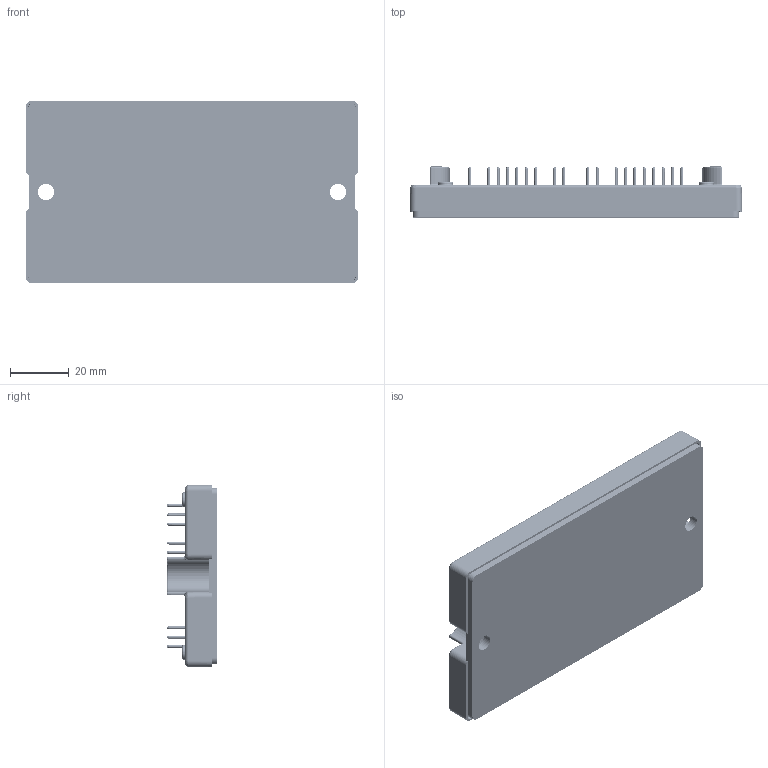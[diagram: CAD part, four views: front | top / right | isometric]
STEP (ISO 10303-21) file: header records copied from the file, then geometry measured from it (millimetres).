
FILE_DESCRIPTION((''),'2;1');
FILE_NAME('ALL-AMG450L65P4S5RE_ASM','2024-06-04T16:42:53',('yanbing.guo'),(''),'CREO PARAMETRIC BY PTC INC, 2022073','CREO PARAMETRIC BY PTC INC, 2022073','');
FILE_SCHEMA(('CONFIG_CONTROL_DESIGN','SHAPE_APPEARANCE_LAYERS_GROUPS'));
Products named in the file (6): COPPER-BASE-2HOLES; PIN; DBC00_ASM; AD-MID-COVER-2HOLES; AD-TOP-COVER; ALL-AMG450L65P4S5RE_ASM
Assembly tree (54 placements, depth 3):
  ALL-AMG450L65P4S5RE_ASM
    COPPER-BASE-2HOLES
    DBC00_ASM
      PIN  x50
    AD-MID-COVER-2HOLES
    AD-TOP-COVER
Bounding box: 112.99 x 17.3 x 62 mm (x, y, z)
Volume: 38763 mm3; surface area: 44170.6 mm2
Topology: 53 solids, 53 shells, 9747 faces, 23702 edges, 14054 vertices
Faces by surface type: cone 3644, plane 3227, torus 1588, cylinder 840, bspline 436, sphere 12
Entity records: 237407 total; most frequent: CARTESIAN_POINT 56942, DIRECTION 41467, ORIENTED_EDGE 35596, EDGE_CURVE 17798, AXIS2_PLACEMENT_3D 17376, VERTEX_POINT 10622, CIRCLE 9768, EDGE_LOOP 8610
